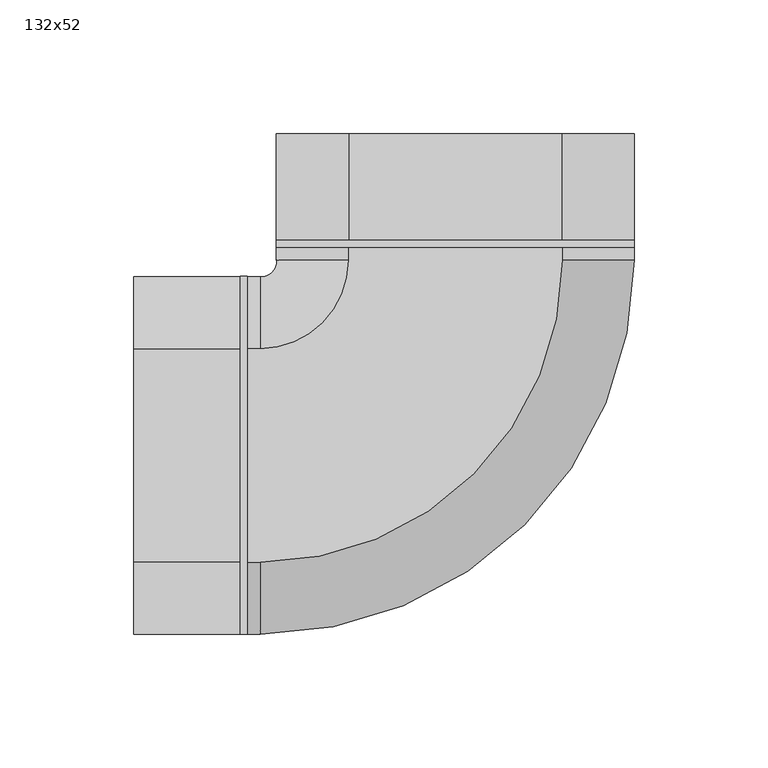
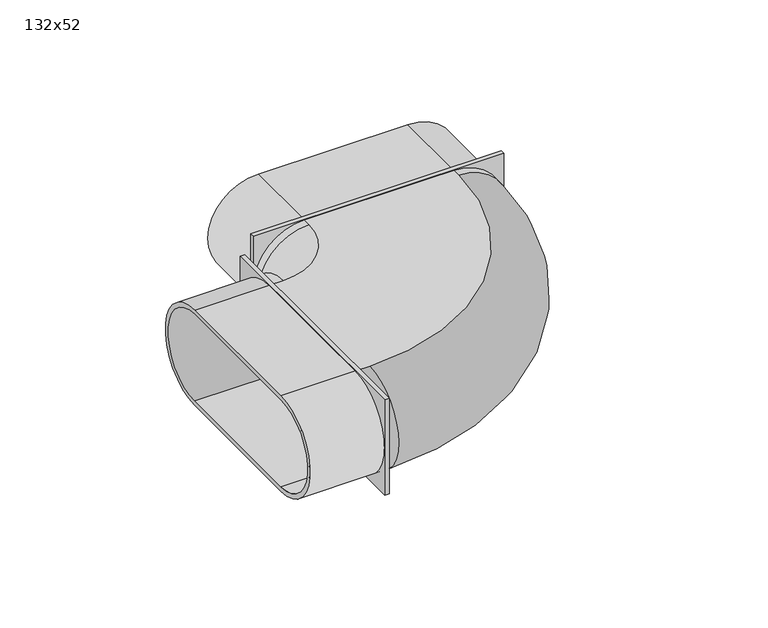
"""IFC4 building model written with IfcOpenShell, lengths in millimetres: duct fitting geometry, NLRS_57_DUF_UN_bend horizontal_M&G : 132x52."""

from ifc_helpers import new_model, si_unit, point, frame, origin, place, context, project, spatial, polyline, circle_curve, ellipse_curve, trimmed, outline, extrude, source, transform, mapped, element, save
from ifc_brep_helpers import plane_surface, cylinder_surface, revolved_surface, advanced_brep


def duct_fitting_132x52_fc9fea9f(model_context):
    return source(origin(), model_context, "Body", "SolidModel", [
        extrude(outline(polyline([(-80.5, -67.0), (-80.5, 67.0), (-78.0, 67.0), (-78.0, -67.0), (-80.5, -67.0)])), frame((0.0, 0.0, -27.0), z_axis=(0.0, 0.0, 1.0), x_axis=(1.0, 0.0, 0.0)), (0.0, 0.0, 1.0), 54.0),
        extrude(outline(polyline([(-67.0, 80.5), (67.0, 80.5), (67.0, 78.0), (-67.0, 78.0), (-67.0, 80.5)])), frame((0.0, 0.0, -27.0), z_axis=(0.0, 0.0, 1.0), x_axis=(1.0, 0.0, 0.0)), (0.0, 0.0, 1.0), 54.0),
        advanced_brep(
        [(-80.5, -40.0, 24.5), (-80.5, 40.0, 24.5), (-80.5, 40.0, -24.5), (-80.5, -40.0, -24.5), (-40.0, 80.5, 24.5), (40.0, 80.5, 24.5), (40.0, 80.5, -24.5), (-40.0, 80.5, -24.5), (-120.5, -40.0, 27.0), (-120.5, 40.0, 27.0), (-120.5, 40.0, -27.0), (-120.5, -40.0, -27.0), (-120.5, 40.0, 24.5), (-120.5, -40.0, 24.5), (-120.5, -40.0, -24.5), (-120.5, 40.0, -24.5), (40.0, 120.5, 27.0), (40.0, 120.5, -27.0), (-40.0, 120.5, -27.0), (-40.0, 120.5, 27.0), (40.0, 120.5, 24.5), (-40.0, 120.5, 24.5), (-40.0, 120.5, -24.5), (40.0, 120.5, -24.5), (-40.0, 80.5, -27.0), (-40.0, 80.5, 27.0), (40.0, 80.5, 27.0), (40.0, 80.5, -27.0), (-80.5, -40.0, -27.0), (-80.5, -40.0, 27.0), (-80.5, 40.0, -27.0), (-73.0, 40.0, -27.0), (-40.0, 73.0, -27.0), (40.0, 73.0, -27.0), (-73.0, -40.0, -27.0), (-80.5, 40.0, 27.0), (-73.0, -40.0, 27.0), (40.0, 73.0, 27.0), (-40.0, 73.0, 27.0), (-73.0, 40.0, 27.0)],
        [
            (0, 1),
            (1, 2, circle_curve(frame((-80.5, 40.0, 0.0), z_axis=(-1.0, 0.0, 0.0), x_axis=(0.0, 1.0, 0.0)), 24.5)),
            (2, 3),
            (3, 0, circle_curve(frame((-80.5, -40.0, 0.0), z_axis=(-1.0, 0.0, 0.0), x_axis=(0.0, 1.0, 0.0)), 24.5)),
            (4, 5),
            (5, 6, circle_curve(frame((40.0, 80.5, 0.0), z_axis=(0.0, 1.0, 0.0), x_axis=(-1.0, 0.0, 0.0)), 24.5)),
            (6, 7),
            (7, 4, circle_curve(frame((-40.0, 80.5, 0.0), z_axis=(0.0, 1.0, 0.0), x_axis=(-1.0, 0.0, 0.0)), 24.5)),
            (8, 9),
            (9, 10, circle_curve(frame((-120.5, 40.0, 0.0), z_axis=(-1.0, 0.0, 0.0), x_axis=(0.0, -1.0, 0.0)), 27.0)),
            (10, 11),
            (11, 8, circle_curve(frame((-120.5, -40.0, 0.0), z_axis=(-1.0, 0.0, 0.0), x_axis=(0.0, -1.0, 0.0)), 27.0)),
            (12, 13),
            (13, 14, circle_curve(frame((-120.5, -40.0, 0.0), z_axis=(1.0, 0.0, 0.0), x_axis=(0.0, 1.0, 0.0)), 24.5)),
            (14, 15),
            (15, 12, circle_curve(frame((-120.5, 40.0, 0.0), z_axis=(1.0, 0.0, 0.0), x_axis=(0.0, 1.0, 0.0)), 24.5)),
            (16, 17, circle_curve(frame((40.0, 120.5, 0.0), z_axis=(0.0, 1.0, 0.0), x_axis=(-1.0, 0.0, 0.0)), 27.0)),
            (17, 18),
            (18, 19, circle_curve(frame((-40.0, 120.5, 0.0), z_axis=(0.0, 1.0, 0.0), x_axis=(-1.0, 0.0, 0.0)), 27.0)),
            (19, 16),
            (20, 21),
            (21, 22, circle_curve(frame((-40.0, 120.5, 0.0), z_axis=(0.0, -1.0, 0.0), x_axis=(-1.0, 0.0, 0.0)), 24.5)),
            (22, 23),
            (23, 20, circle_curve(frame((40.0, 120.5, 0.0), z_axis=(0.0, -1.0, 0.0), x_axis=(-1.0, 0.0, 0.0)), 24.5)),
            (12, 1),
            (0, 13),
            (15, 2),
            (14, 3),
            (18, 24),
            (24, 25, circle_curve(frame((-40.0, 80.5, 0.0), z_axis=(0.0, 1.0, 0.0), x_axis=(-1.0, 0.0, 0.0)), 27.0)),
            (25, 19),
            (16, 26),
            (26, 27, circle_curve(frame((40.0, 80.5, 0.0), z_axis=(0.0, 1.0, 0.0), x_axis=(-1.0, 0.0, 0.0)), 27.0)),
            (27, 17),
            (11, 28),
            (28, 29, circle_curve(frame((-80.5, -40.0, 0.0), z_axis=(-1.0, 0.0, 0.0), x_axis=(0.0, -1.0, 0.0)), 27.0)),
            (29, 8),
            (10, 30),
            (30, 31),
            (31, 32, circle_curve(frame((-73.0, 73.0, -27.0), z_axis=(0.0, 0.0, 1.0), x_axis=(0.0, -1.0, 0.0)), 33.0)),
            (32, 24),
            (27, 33),
            (33, 34, circle_curve(frame((-73.0, 73.0, -27.0), z_axis=(0.0, 0.0, -1.0), x_axis=(0.0, -1.0, 0.0)), 113.0)),
            (34, 28),
            (9, 35),
            (35, 30, circle_curve(frame((-80.5, 40.0, 0.0), z_axis=(-1.0, 0.0, 0.0), x_axis=(0.0, -1.0, 0.0)), 27.0)),
            (29, 36),
            (36, 37, circle_curve(frame((-73.0, 73.0, 27.0), z_axis=(0.0, 0.0, 1.0), x_axis=(0.0, -1.0, 0.0)), 113.0)),
            (37, 26),
            (25, 38),
            (38, 39, circle_curve(frame((-73.0, 73.0, 27.0), z_axis=(0.0, 0.0, -1.0), x_axis=(0.0, -1.0, 0.0)), 33.0)),
            (39, 35),
            (4, 21),
            (20, 5),
            (7, 22),
            (6, 23),
            (39, 31, circle_curve(frame((-73.0, 40.0, 0.0), z_axis=(-1.0, 0.0, 0.0), x_axis=(0.0, 1.0, 0.0)), 27.0)),
            (34, 36, circle_curve(frame((-73.0, -40.0, 0.0), z_axis=(-1.0, 0.0, 0.0), x_axis=(0.0, 1.0, 0.0)), 27.0)),
            (38, 32, circle_curve(frame((-40.0, 73.0, 0.0), z_axis=(0.0, -1.0, 0.0), x_axis=(-1.0, 0.0, 0.0)), 27.0)),
            (33, 37, circle_curve(frame((40.0, 73.0, 0.0), z_axis=(0.0, -1.0, 0.0), x_axis=(-1.0, 0.0, 0.0)), 27.0)),
        ],
        [
            plane_surface(frame((-80.5, 0.0, 0.0), z_axis=(-1.0, 0.0, 0.0), x_axis=(0.0, 0.0, 1.0))),
            plane_surface(frame((0.0, 80.5, 0.0), z_axis=(0.0, 1.0, 0.0), x_axis=(0.0, 0.0, 1.0))),
            plane_surface(frame((-120.5, 0.0, 0.0), z_axis=(-1.0, 0.0, 0.0), x_axis=(0.0, 0.0, 1.0))),
            plane_surface(frame((0.0, 120.5, 0.0), z_axis=(0.0, 1.0, 0.0), x_axis=(0.0, 0.0, 1.0))),
            plane_surface(frame((-120.5, -40.0, 24.5), z_axis=(0.0, 0.0, -1.0), x_axis=(1.0, 0.0, 0.0))),
            revolved_surface(polyline([(-120.5, 64.5, 0.0), (-80.5, 64.5, 0.0)]), (-120.5, 40.0, 0.0), (-1.0, 0.0, 0.0)),
            plane_surface(frame((-120.5, 40.0, -24.5), z_axis=(0.0, 0.0, 1.0), x_axis=(1.0, 0.0, 0.0))),
            revolved_surface(polyline([(-120.5, -15.5, 0.0), (-80.5, -15.5, 0.0)]), (-120.5, -40.0, 0.0), (-1.0, 0.0, 0.0)),
            cylinder_surface(frame((-40.0, 80.5, 0.0), z_axis=(0.0, -1.0, 0.0), x_axis=(-1.0, 0.0, 0.0)), 27.0),
            cylinder_surface(frame((40.0, 80.5, 0.0), z_axis=(0.0, -1.0, 0.0), x_axis=(-1.0, 0.0, 0.0)), 27.0),
            cylinder_surface(frame((-80.5, -40.0, 0.0), z_axis=(1.0, 0.0, 0.0), x_axis=(0.0, -1.0, 0.0)), 27.0),
            plane_surface(frame((-80.5, -40.0, -27.0), z_axis=(0.0, 0.0, -1.0), x_axis=(-1.0, 0.0, 0.0))),
            cylinder_surface(frame((-80.5, 40.0, 0.0), z_axis=(1.0, 0.0, 0.0), x_axis=(0.0, -1.0, 0.0)), 27.0),
            plane_surface(frame((-80.5, 40.0, 27.0), z_axis=(0.0, 0.0, 1.0), x_axis=(-1.0, 0.0, 0.0))),
            plane_surface(frame((40.0, 80.5, 24.5), z_axis=(0.0, 0.0, -1.0), x_axis=(0.0, 1.0, 0.0))),
            revolved_surface(polyline([(-64.5, 80.5, 0.0), (-64.5, 120.5, 0.0)]), (-40.0, 80.5, 0.0), (0.0, -1.0, 0.0)),
            plane_surface(frame((-40.0, 80.5, -24.5), z_axis=(0.0, 0.0, 1.0), x_axis=(0.0, 1.0, 0.0))),
            revolved_surface(polyline([(15.5, 80.5, 0.0), (15.5, 120.5, 0.0)]), (40.0, 80.5, 0.0), (0.0, -1.0, 0.0)),
            cylinder_surface(frame((-80.5, 40.0, 0.0), z_axis=(-1.0, 0.0, 0.0), x_axis=(0.0, 1.0, 0.0)), 27.0),
            cylinder_surface(frame((-80.5, -40.0, 0.0), z_axis=(-1.0, 0.0, 0.0), x_axis=(0.0, 1.0, 0.0)), 27.0),
            revolved_surface(trimmed(ellipse_curve(frame((-73.0, 40.0, 0.0), z_axis=(-1.0, 0.0, 0.0), x_axis=(0.0, 1.0, 0.0)), 27.0, 27.0), [point((-73.0, 40.0, 27.0))], [point((-73.0, 40.0, -27.0))], True, "CARTESIAN"), (-73.0, 73.0, 0.0), (0.0, 0.0, 1.0)),
            revolved_surface(trimmed(ellipse_curve(frame((-73.0, -40.0, 0.0), z_axis=(-1.0, 0.0, 0.0), x_axis=(0.0, 1.0, 0.0)), 27.0, 27.0), [point((-73.0, -40.0, -27.0))], [point((-73.0, -40.0, 27.0))], True, "CARTESIAN"), (-73.0, 73.0, 0.0), (0.0, 0.0, 1.0)),
            cylinder_surface(frame((-40.0, 73.0, 0.0), z_axis=(0.0, -1.0, 0.0), x_axis=(-1.0, 0.0, 0.0)), 27.0),
            cylinder_surface(frame((40.0, 73.0, 0.0), z_axis=(0.0, -1.0, 0.0), x_axis=(-1.0, 0.0, 0.0)), 27.0),
        ],
        [
            (0, [[1, 2, 3, 4]]),
            (1, [[5, 6, 7, 8]]),
            (2, [[9, 10, 11, 12], [13, 14, 15, 16]]),
            (3, [[17, 18, 19, 20], [21, 22, 23, 24]]),
            (4, [[25, -1, 26, -13]]),
            (5, [[-25, -16, 27, -2]]),
            (6, [[-27, -15, 28, -3]]),
            (7, [[-26, -4, -28, -14]]),
            (8, [[-19, 29, 30, 31]]),
            (9, [[-17, 32, 33, 34]]),
            (10, [[-12, 35, 36, 37]]),
            (11, [[-11, 38, 39, 40, 41, -29, -18, -34, 42, 43, 44, -35]]),
            (12, [[-10, 45, 46, -38]]),
            (13, [[-9, -37, 47, 48, 49, -32, -20, -31, 50, 51, 52, -45]]),
            (14, [[53, -21, 54, -5]]),
            (15, [[-53, -8, 55, -22]]),
            (16, [[-55, -7, 56, -23]]),
            (17, [[-54, -24, -56, -6]]),
            (18, [[-52, 57, -39, -46]]),
            (19, [[-47, -36, -44, 58]]),
            (20, [[-51, 59, -40, -57]]),
            (21, [[-48, -58, -43, 60]]),
            (22, [[-50, -30, -41, -59]]),
            (23, [[-49, -60, -42, -33]]),
        ],
    ),
    ])


if __name__ == "__main__":
    model = new_model("IFC4")
    model_context = context("Model", 3, world=origin())
    ifc_project = project(units=[si_unit("LENGTHUNIT", "METRE", prefix="MILLI")], contexts=[model_context])
    site = spatial("IfcSite", under=ifc_project)
    building = spatial("IfcBuilding", under=site)
    placement = place(None, origin())
    duct_fitting_132x52_shape = duct_fitting_132x52_fc9fea9f(model_context)
    element("IfcDuctFitting", 1, ObjectType="NLRS_57_DUF_UN_bend horizontal_M&G : 132x52", at=placement, inside=building, context=model_context, shape_type="MappedRepresentation", body=[
        mapped(duct_fitting_132x52_shape, transform((0.0, 0.0, 0.0), x_axis=(1.0, 0.0, 0.0), y_axis=(0.0, 1.0, 0.0), z_axis=(0.0, 0.0, 1.0))),
    ])
    save(model, "model.ifc")
